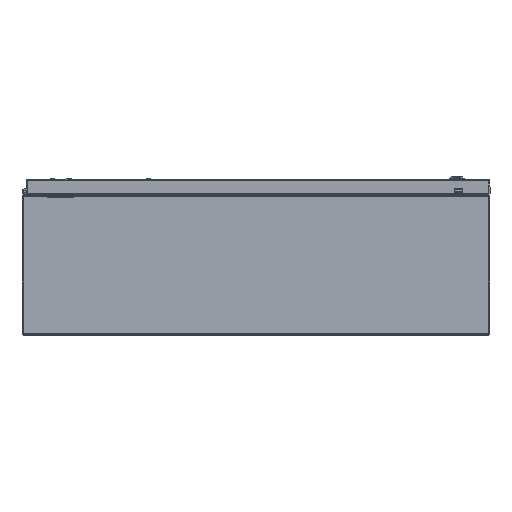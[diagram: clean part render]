
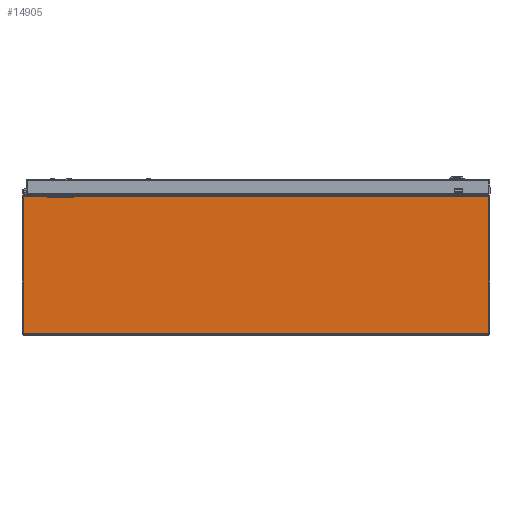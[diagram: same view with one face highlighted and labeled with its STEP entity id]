
A CAD part, front view. The second image highlights one B-rep face of the part: STEP entity #14905.
In plain terms, the highlighted planar face has unit normal (0, -1, 0) as drawn and (0, 1, 0) by its records, which use the part's own axes.
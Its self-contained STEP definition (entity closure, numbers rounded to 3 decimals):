
#5589 = AXIS2_PLACEMENT_3D ( 'NONE', #6176, #6186, #6187 ) ;
#5978 = FACE_OUTER_BOUND ( 'NONE', #45702, .T. ) ;
#6176 = CARTESIAN_POINT ( 'NONE',  ( 17.637, 0., 0.078 ) ) ;
#6181 = PLANE ( 'NONE',  #5589 ) ;
#6186 = DIRECTION ( 'NONE',  ( 0., -1., 0. ) ) ;
#6187 = DIRECTION ( 'NONE',  ( 0., 0., -1. ) ) ;
#14905 = ADVANCED_FACE ( 'NONE', ( #5978 ), #6181, .F. ) ;
#31228 = CARTESIAN_POINT ( 'NONE',  ( 17.637, 0., 10.5 ) ) ;
#31230 = CARTESIAN_POINT ( 'NONE',  ( -17.636, 0., 10.5 ) ) ;
#31235 = CARTESIAN_POINT ( 'NONE',  ( -17.637, 0., 0.078 ) ) ;
#31237 = CARTESIAN_POINT ( 'NONE',  ( 17.637, 0., 0.078 ) ) ;
#41484 = VECTOR ( 'NONE', #41702, 39.37 ) ;
#41491 = LINE ( 'NONE', #41699, #41484 ) ;
#41500 = LINE ( 'NONE', #41734, #41504 ) ;
#41504 = VECTOR ( 'NONE', #41760, 39.37 ) ;
#41699 = CARTESIAN_POINT ( 'NONE',  ( 17.637, 0., 10.5 ) ) ;
#41702 = DIRECTION ( 'NONE',  ( -1., 0., 0. ) ) ;
#41734 = CARTESIAN_POINT ( 'NONE',  ( -17.637, 0., 0.078 ) ) ;
#41760 = DIRECTION ( 'NONE',  ( 0., 0., 1. ) ) ;
#43649 = LINE ( 'NONE', #45863, #46263 ) ;
#44153 = VERTEX_POINT ( 'NONE', #31228 ) ;
#44155 = VERTEX_POINT ( 'NONE', #31230 ) ;
#44160 = VERTEX_POINT ( 'NONE', #31235 ) ;
#44162 = VERTEX_POINT ( 'NONE', #31237 ) ;
#45460 = ORIENTED_EDGE ( 'NONE', *, *, #52766, .T. ) ;
#45462 = ORIENTED_EDGE ( 'NONE', *, *, #52757, .F. ) ;
#45464 = ORIENTED_EDGE ( 'NONE', *, *, #52924, .F. ) ;
#45466 = ORIENTED_EDGE ( 'NONE', *, *, #52921, .T. ) ;
#45702 = EDGE_LOOP ( 'NONE', ( #45460, #45462, #45464, #45466 ) ) ;
#45853 = CARTESIAN_POINT ( 'NONE',  ( 17.637, 0., 0.078 ) ) ;
#45863 = CARTESIAN_POINT ( 'NONE',  ( 17.637, 0., 0.078 ) ) ;
#45864 = DIRECTION ( 'NONE',  ( -1., 0., 0. ) ) ;
#45869 = DIRECTION ( 'NONE',  ( 0., 0., 1. ) ) ;
#46241 = LINE ( 'NONE', #45853, #46257 ) ;
#46257 = VECTOR ( 'NONE', #45864, 39.37 ) ;
#46263 = VECTOR ( 'NONE', #45869, 39.37 ) ;
#52757 = EDGE_CURVE ( 'NONE', #44153, #44155, #41491, .T. ) ;
#52766 = EDGE_CURVE ( 'NONE', #44160, #44155, #41500, .T. ) ;
#52921 = EDGE_CURVE ( 'NONE', #44162, #44160, #46241, .T. ) ;
#52924 = EDGE_CURVE ( 'NONE', #44162, #44153, #43649, .T. ) ;
